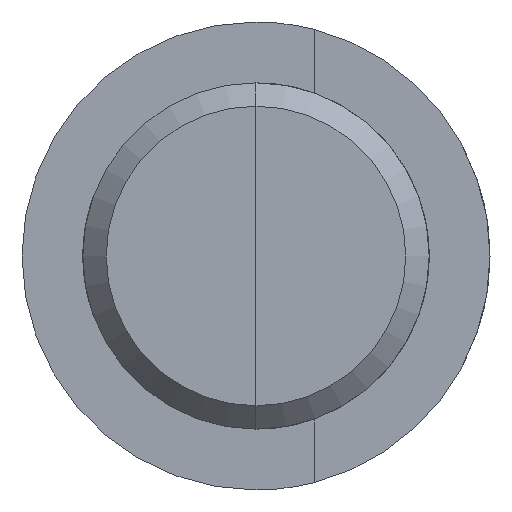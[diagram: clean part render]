
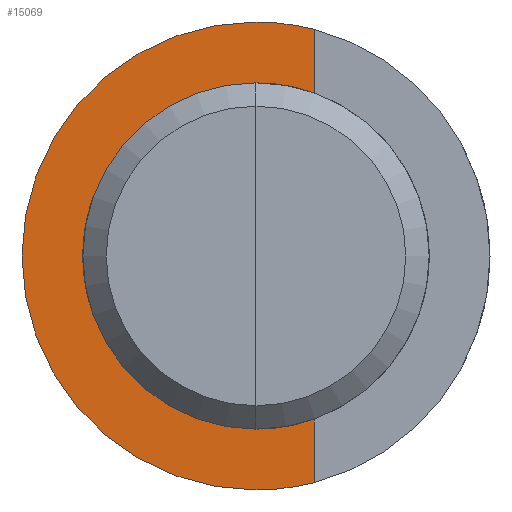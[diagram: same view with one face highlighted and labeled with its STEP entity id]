
A CAD part, left-side view. The second image highlights one B-rep face of the part: STEP entity #15069.
In plain terms, the highlighted planar face has unit normal (-1, 0, 0).
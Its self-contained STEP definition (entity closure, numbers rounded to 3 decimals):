
#74 = DIRECTION ( 'NONE',  ( 0., 0., -1. ) ) ;
#136 = CARTESIAN_POINT ( 'NONE',  ( -55., 0., 0. ) ) ;
#211 = DIRECTION ( 'NONE',  ( 1., 0., 0. ) ) ;
#541 = ORIENTED_EDGE ( 'NONE', *, *, #11576, .T. ) ;
#616 = DIRECTION ( 'NONE',  ( 1., 0., 0. ) ) ;
#735 = ORIENTED_EDGE ( 'NONE', *, *, #14430, .F. ) ;
#962 = VERTEX_POINT ( 'NONE', #14395 ) ;
#988 = DIRECTION ( 'NONE',  ( 0., 0., -1. ) ) ;
#1501 = EDGE_CURVE ( 'NONE', #4966, #6307, #15141, .T. ) ;
#1957 = DIRECTION ( 'NONE',  ( 0., 0., -1. ) ) ;
#2262 = DIRECTION ( 'NONE',  ( 0., 0., -1. ) ) ;
#3351 = EDGE_CURVE ( 'NONE', #14716, #962, #6997, .T. ) ;
#3656 = CARTESIAN_POINT ( 'NONE',  ( -55., 0., -20. ) ) ;
#4082 = DIRECTION ( 'NONE',  ( 1., 0., 0. ) ) ;
#4186 = DIRECTION ( 'NONE',  ( 0., 0., -1. ) ) ;
#4373 = AXIS2_PLACEMENT_3D ( 'NONE', #7483, #616, #2262 ) ;
#4807 = ORIENTED_EDGE ( 'NONE', *, *, #5727, .F. ) ;
#4966 = VERTEX_POINT ( 'NONE', #11526 ) ;
#5061 = ORIENTED_EDGE ( 'NONE', *, *, #13374, .T. ) ;
#5266 = AXIS2_PLACEMENT_3D ( 'NONE', #16474, #9621, #4186 ) ;
#5351 = AXIS2_PLACEMENT_3D ( 'NONE', #9783, #8314, #15158 ) ;
#5593 = ORIENTED_EDGE ( 'NONE', *, *, #10959, .F. ) ;
#5666 = VERTEX_POINT ( 'NONE', #14294 ) ;
#5727 = EDGE_CURVE ( 'NONE', #8075, #4966, #8726, .T. ) ;
#5754 = CIRCLE ( 'NONE', #10153, 14.8 ) ;
#6307 = VERTEX_POINT ( 'NONE', #12444 ) ;
#6576 = ORIENTED_EDGE ( 'NONE', *, *, #3351, .T. ) ;
#6997 = CIRCLE ( 'NONE', #7218, 14.8 ) ;
#7218 = AXIS2_PLACEMENT_3D ( 'NONE', #136, #4082, #74 ) ;
#7458 = PLANE ( 'NONE',  #11861 ) ;
#7483 = CARTESIAN_POINT ( 'NONE',  ( -55., 0., 0. ) ) ;
#7790 = EDGE_LOOP ( 'NONE', ( #5593, #13953, #4807, #735, #12381, #6576, #5061, #541 ) ) ;
#7811 = VERTEX_POINT ( 'NONE', #10415 ) ;
#8075 = VERTEX_POINT ( 'NONE', #3656 ) ;
#8219 = CARTESIAN_POINT ( 'NONE',  ( -55., -5., -13.93 ) ) ;
#8314 = DIRECTION ( 'NONE',  ( 1., 0., 0. ) ) ;
#8726 = CIRCLE ( 'NONE', #4373, 20. ) ;
#9056 = CARTESIAN_POINT ( 'NONE',  ( -55., -5., 0. ) ) ;
#9361 = EDGE_CURVE ( 'NONE', #14716, #5666, #16553, .T. ) ;
#9621 = DIRECTION ( 'NONE',  ( 1., 0., 0. ) ) ;
#9651 = CARTESIAN_POINT ( 'NONE',  ( -55., 0., 0. ) ) ;
#9733 = CARTESIAN_POINT ( 'NONE',  ( -55., -5., 13.93 ) ) ;
#9783 = CARTESIAN_POINT ( 'NONE',  ( -55., 0., 0. ) ) ;
#10153 = AXIS2_PLACEMENT_3D ( 'NONE', #9651, #211, #16270 ) ;
#10342 = CARTESIAN_POINT ( 'NONE',  ( -55., -5., 0. ) ) ;
#10415 = CARTESIAN_POINT ( 'NONE',  ( -55., 0., 14.8 ) ) ;
#10818 = CIRCLE ( 'NONE', #14852, 20. ) ;
#10847 = VECTOR ( 'NONE', #15836, 1000. ) ;
#10959 = EDGE_CURVE ( 'NONE', #6307, #11726, #12548, .T. ) ;
#11526 = CARTESIAN_POINT ( 'NONE',  ( -55., 0., 20. ) ) ;
#11576 = EDGE_CURVE ( 'NONE', #7811, #11726, #12100, .T. ) ;
#11726 = VERTEX_POINT ( 'NONE', #9733 ) ;
#11861 = AXIS2_PLACEMENT_3D ( 'NONE', #16947, #12704, #1957 ) ;
#12100 = CIRCLE ( 'NONE', #5266, 14.8 ) ;
#12381 = ORIENTED_EDGE ( 'NONE', *, *, #9361, .F. ) ;
#12444 = CARTESIAN_POINT ( 'NONE',  ( -55., -5., 19.365 ) ) ;
#12548 = LINE ( 'NONE', #10342, #10847 ) ;
#12704 = DIRECTION ( 'NONE',  ( -1., 0., 0. ) ) ;
#12903 = VECTOR ( 'NONE', #988, 1000. ) ;
#13094 = DIRECTION ( 'NONE',  ( 0., 0., -1. ) ) ;
#13212 = CARTESIAN_POINT ( 'NONE',  ( -55., 0., 0. ) ) ;
#13374 = EDGE_CURVE ( 'NONE', #962, #7811, #5754, .T. ) ;
#13953 = ORIENTED_EDGE ( 'NONE', *, *, #1501, .F. ) ;
#14294 = CARTESIAN_POINT ( 'NONE',  ( -55., -5., -19.365 ) ) ;
#14395 = CARTESIAN_POINT ( 'NONE',  ( -55., 0., -14.8 ) ) ;
#14430 = EDGE_CURVE ( 'NONE', #5666, #8075, #10818, .T. ) ;
#14716 = VERTEX_POINT ( 'NONE', #8219 ) ;
#14852 = AXIS2_PLACEMENT_3D ( 'NONE', #13212, #15857, #13094 ) ;
#15069 = ADVANCED_FACE ( 'NONE', ( #15712 ), #7458, .T. ) ;
#15141 = CIRCLE ( 'NONE', #5351, 20. ) ;
#15158 = DIRECTION ( 'NONE',  ( 0., 0., -1. ) ) ;
#15712 = FACE_OUTER_BOUND ( 'NONE', #7790, .T. ) ;
#15836 = DIRECTION ( 'NONE',  ( 0., 0., -1. ) ) ;
#15857 = DIRECTION ( 'NONE',  ( 1., 0., 0. ) ) ;
#16270 = DIRECTION ( 'NONE',  ( 0., 0., -1. ) ) ;
#16474 = CARTESIAN_POINT ( 'NONE',  ( -55., 0., 0. ) ) ;
#16553 = LINE ( 'NONE', #9056, #12903 ) ;
#16947 = CARTESIAN_POINT ( 'NONE',  ( -55., 0., 0. ) ) ;
